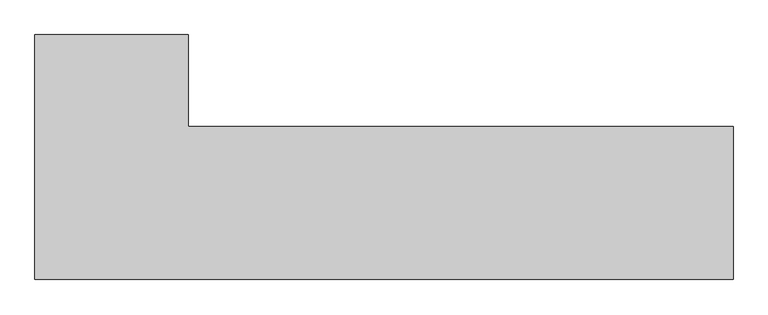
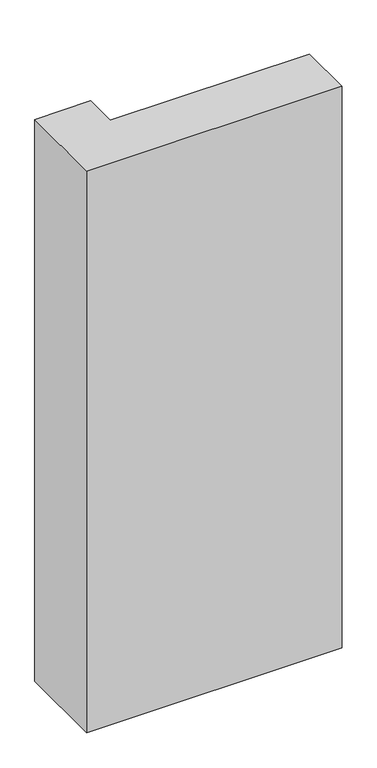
"""IFC4 building model written with IfcOpenShell, lengths in millimetres: column geometry, Columna Estructural Ele : ECO_Ele 40x114x25."""

from ifc_helpers import new_model, si_unit, frame, origin, place, context, project, spatial, polyline, outline, extrude, source, transform, mapped, element, save


def column_3eb6b615(model_context):
    return source(origin(), model_context, "Body", "SweptSolid", [
        extrude(outline(polyline([(125.0, 275.0), (125.0, 125.0), (1015.0, 125.0), (1015.0, -125.0), (-125.0, -125.0), (-125.0, 275.0), (125.0, 275.0)])), frame((0.0, 0.0, 13350.0), z_axis=(0.0, 0.0, 1.0), x_axis=(1.0, 0.0, 0.0)), (0.0, 0.0, 1.0), 2650.0),
    ])


if __name__ == "__main__":
    model = new_model("IFC4")
    model_context = context("Model", 3, world=origin())
    ifc_project = project(units=[si_unit("LENGTHUNIT", "METRE", prefix="MILLI")], contexts=[model_context])
    site = spatial("IfcSite", under=ifc_project)
    building = spatial("IfcBuilding", under=site)
    placement = place(None, origin())
    column_shape = column_3eb6b615(model_context)
    element("IfcColumn", 1, ObjectType="Columna Estructural Ele : ECO_Ele 40x114x25", at=placement, inside=building, context=model_context, shape_type="MappedRepresentation", body=[
        mapped(column_shape, transform((0.0, 0.0, 0.0), x_axis=(1.0, 0.0, 0.0), y_axis=(0.0, 1.0, 0.0), z_axis=(0.0, 0.0, 1.0))),
    ])
    save(model, "model.ifc")
